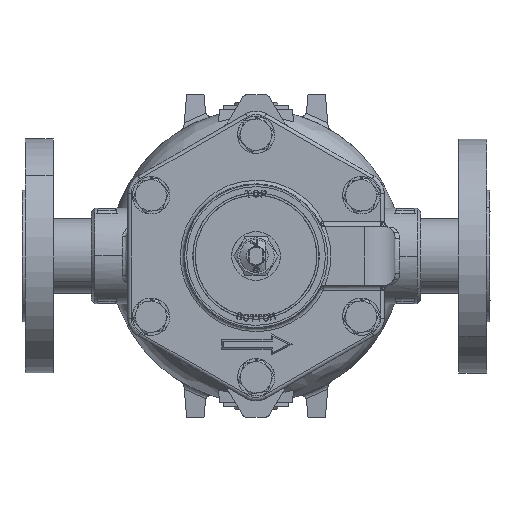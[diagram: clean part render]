
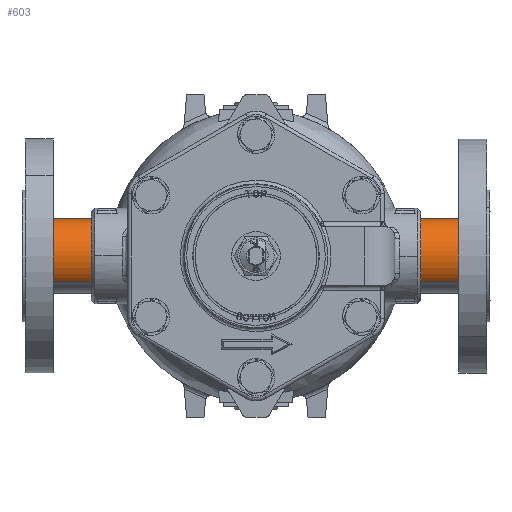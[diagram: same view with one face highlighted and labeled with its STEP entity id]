
A CAD part, front view. The second image highlights one B-rep face of the part: STEP entity #603.
In plain terms, the highlighted cylindrical face has radius 21.35 mm (diameter 42.7 mm), a partial arc.
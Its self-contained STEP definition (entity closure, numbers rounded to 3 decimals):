
#603=ADVANCED_FACE('',(#1624),#1623,.T.);
#1623=CYLINDRICAL_SURFACE('',#9674,21.35);
#1624=FACE_OUTER_BOUND('',#9675,.T.);
#9671=CARTESIAN_POINT('',(0.,266.5,0.));
#9672=DIRECTION('',(0.,1.,0.));
#9673=DIRECTION('',(0.725,0.,0.688));
#9674=AXIS2_PLACEMENT_3D('',#9671,#9672,#9673);
#9675=EDGE_LOOP('',(#24328,#24329,#24330,#24331,#24332,#24333,#24334,#24335,#24336,#24337));
#24328=ORIENTED_EDGE('',*,*,#29278,.F.);
#24329=ORIENTED_EDGE('',*,*,#29277,.F.);
#24330=ORIENTED_EDGE('',*,*,#29276,.F.);
#24331=ORIENTED_EDGE('',*,*,#29275,.F.);
#24332=ORIENTED_EDGE('',*,*,#29290,.T.);
#24333=ORIENTED_EDGE('',*,*,#29260,.T.);
#24334=ORIENTED_EDGE('',*,*,#29259,.T.);
#24335=ORIENTED_EDGE('',*,*,#29258,.T.);
#24336=ORIENTED_EDGE('',*,*,#29257,.T.);
#24337=ORIENTED_EDGE('',*,*,#29291,.F.);
#29257=EDGE_CURVE('',#32564,#32556,#32565,.T.);
#29258=EDGE_CURVE('',#32571,#32564,#32572,.T.);
#29259=EDGE_CURVE('',#32578,#32571,#32579,.T.);
#29260=EDGE_CURVE('',#32585,#32578,#32586,.T.);
#29275=EDGE_CURVE('',#32683,#32690,#32691,.T.);
#29276=EDGE_CURVE('',#32690,#32697,#32698,.T.);
#29277=EDGE_CURVE('',#32697,#32704,#32705,.T.);
#29278=EDGE_CURVE('',#32704,#32711,#32712,.T.);
#29290=EDGE_CURVE('',#32683,#32585,#32792,.T.);
#29291=EDGE_CURVE('',#32711,#32556,#32798,.T.);
#32556=VERTEX_POINT('',#49662);
#32564=VERTEX_POINT('',#49671);
#32565=(BOUNDED_CURVE() B_SPLINE_CURVE(3,(#49672,#49673,#49674,#49675,#49676,#49677,#49678),.UNSPECIFIED.,.F.,.F.) B_SPLINE_CURVE_WITH_KNOTS((4,1,1,1,4),(0.,4.454,8.908,14.41,16.209),.UNSPECIFIED.) CURVE() GEOMETRIC_REPRESENTATION_ITEM() RATIONAL_B_SPLINE_CURVE((1.,1.,1.,1.,1.,1.,1.)) REPRESENTATION_ITEM('') );
#32571=VERTEX_POINT('',#49679);
#32572=(BOUNDED_CURVE() B_SPLINE_CURVE(3,(#49680,#49681,#49682,#49683,#49684,#49685,#49686),.UNSPECIFIED.,.F.,.F.) B_SPLINE_CURVE_WITH_KNOTS((4,1,1,1,4),(0.,4.061,8.934,13.266,17.327),.UNSPECIFIED.) CURVE() GEOMETRIC_REPRESENTATION_ITEM() RATIONAL_B_SPLINE_CURVE((1.,1.,1.,1.,1.,1.,1.)) REPRESENTATION_ITEM('') );
#32578=VERTEX_POINT('',#49687);
#32579=CIRCLE('',#49691,21.35);
#32585=VERTEX_POINT('',#49692);
#32586=CIRCLE('',#49696,21.35);
#32683=VERTEX_POINT('',#49786);
#32690=VERTEX_POINT('',#49791);
#32691=CIRCLE('',#49795,21.35);
#32697=VERTEX_POINT('',#49796);
#32698=(BOUNDED_CURVE() B_SPLINE_CURVE(3,(#49797,#49798,#49799,#49800,#49801,#49802),.UNSPECIFIED.,.F.,.F.) B_SPLINE_CURVE_WITH_KNOTS((4,1,1,4),(0.,5.572,11.144,16.209),.UNSPECIFIED.) CURVE() GEOMETRIC_REPRESENTATION_ITEM() RATIONAL_B_SPLINE_CURVE((1.,1.,1.,1.,1.,1.)) REPRESENTATION_ITEM('') );
#32704=VERTEX_POINT('',#49803);
#32705=(BOUNDED_CURVE() B_SPLINE_CURVE(3,(#49804,#49805,#49806,#49807,#49808,#49809,#49810),.UNSPECIFIED.,.F.,.F.) B_SPLINE_CURVE_WITH_KNOTS((4,1,1,1,4),(0.,4.061,8.934,13.266,17.327),.UNSPECIFIED.) CURVE() GEOMETRIC_REPRESENTATION_ITEM() RATIONAL_B_SPLINE_CURVE((1.,1.,1.,1.,1.,1.,1.)) REPRESENTATION_ITEM('') );
#32711=VERTEX_POINT('',#49811);
#32712=(BOUNDED_CURVE() B_SPLINE_CURVE(3,(#49812,#49813,#49814,#49815,#49816,#49817,#49818),.UNSPECIFIED.,.F.,.F.) B_SPLINE_CURVE_WITH_KNOTS((4,1,1,1,4),(0.,4.454,8.908,14.41,16.209),.UNSPECIFIED.) CURVE() GEOMETRIC_REPRESENTATION_ITEM() RATIONAL_B_SPLINE_CURVE((1.,1.,1.,1.,1.,1.,1.)) REPRESENTATION_ITEM('') );
#32792=(BOUNDED_CURVE() B_SPLINE_CURVE(1,(#49884,#49885),.UNSPECIFIED.,.F.,.F.) B_SPLINE_CURVE_WITH_KNOTS((2,2),(0.036,0.964),.UNSPECIFIED.) CURVE() GEOMETRIC_REPRESENTATION_ITEM() RATIONAL_B_SPLINE_CURVE((1.,1.)) REPRESENTATION_ITEM('') );
#32798=(BOUNDED_CURVE() B_SPLINE_CURVE(1,(#49886,#49887),.UNSPECIFIED.,.F.,.F.) B_SPLINE_CURVE_WITH_KNOTS((2,2),(0.036,0.964),.UNSPECIFIED.) CURVE() GEOMETRIC_REPRESENTATION_ITEM() RATIONAL_B_SPLINE_CURVE((0.75,0.75)) REPRESENTATION_ITEM('') );
#49662=CARTESIAN_POINT('',(-15.487,260.,-14.696));
#49671=CARTESIAN_POINT('',(-21.35,260.,0.));
#49672=CARTESIAN_POINT('',(-21.35,260.,0.));
#49673=CARTESIAN_POINT('',(-21.35,260.,-1.485));
#49674=CARTESIAN_POINT('',(-21.039,260.,-4.454));
#49675=CARTESIAN_POINT('',(-19.553,260.,-9.049));
#49676=CARTESIAN_POINT('',(-17.501,260.,-12.426));
#49677=CARTESIAN_POINT('',(-15.9,260.,-14.261));
#49678=CARTESIAN_POINT('',(-15.487,260.,-14.696));
#49679=CARTESIAN_POINT('',(-14.696,260.,15.487));
#49680=CARTESIAN_POINT('',(-14.696,260.,15.487));
#49681=CARTESIAN_POINT('',(-15.678,260.,14.555));
#49682=CARTESIAN_POINT('',(-17.643,260.,12.299));
#49683=CARTESIAN_POINT('',(-19.805,260.,8.409));
#49684=CARTESIAN_POINT('',(-21.083,260.,4.151));
#49685=CARTESIAN_POINT('',(-21.35,260.,1.354));
#49686=CARTESIAN_POINT('',(-21.35,260.,0.));
#49687=CARTESIAN_POINT('',(0.,260.,21.35));
#49688=CARTESIAN_POINT('',(0.,260.,0.));
#49689=DIRECTION('',(0.,-1.,0.));
#49690=DIRECTION('',(0.,0.,-1.));
#49691=AXIS2_PLACEMENT_3D('',#49688,#49689,#49690);
#49692=CARTESIAN_POINT('',(15.487,260.,14.696));
#49693=CARTESIAN_POINT('',(0.,260.,0.));
#49694=DIRECTION('',(0.,-1.,0.));
#49695=DIRECTION('',(-1.,0.,0.));
#49696=AXIS2_PLACEMENT_3D('',#49693,#49694,#49695);
#49786=CARTESIAN_POINT('',(15.487,0.,14.696));
#49791=CARTESIAN_POINT('',(0.,0.,21.35));
#49792=CARTESIAN_POINT('',(0.,0.,0.));
#49793=DIRECTION('',(0.,-1.,0.));
#49794=DIRECTION('',(-1.,0.,0.));
#49795=AXIS2_PLACEMENT_3D('',#49792,#49793,#49794);
#49796=CARTESIAN_POINT('',(-14.696,0.,15.487));
#49797=CARTESIAN_POINT('',(0.,0.,21.35));
#49798=CARTESIAN_POINT('',(-1.857,0.,21.35));
#49799=CARTESIAN_POINT('',(-5.572,0.,20.862));
#49800=CARTESIAN_POINT('',(-10.609,0.,18.783));
#49801=CARTESIAN_POINT('',(-13.472,0.,16.649));
#49802=CARTESIAN_POINT('',(-14.696,0.,15.487));
#49803=CARTESIAN_POINT('',(-21.35,0.,0.));
#49804=CARTESIAN_POINT('',(-14.696,0.,15.487));
#49805=CARTESIAN_POINT('',(-15.678,0.,14.555));
#49806=CARTESIAN_POINT('',(-17.643,0.,12.299));
#49807=CARTESIAN_POINT('',(-19.805,0.,8.409));
#49808=CARTESIAN_POINT('',(-21.083,0.,4.151));
#49809=CARTESIAN_POINT('',(-21.35,0.,1.354));
#49810=CARTESIAN_POINT('',(-21.35,0.,0.));
#49811=CARTESIAN_POINT('',(-15.487,0.,-14.696));
#49812=CARTESIAN_POINT('',(-21.35,0.,0.));
#49813=CARTESIAN_POINT('',(-21.35,0.,-1.485));
#49814=CARTESIAN_POINT('',(-21.039,0.,-4.454));
#49815=CARTESIAN_POINT('',(-19.553,0.,-9.049));
#49816=CARTESIAN_POINT('',(-17.501,0.,-12.426));
#49817=CARTESIAN_POINT('',(-15.9,0.,-14.261));
#49818=CARTESIAN_POINT('',(-15.487,0.,-14.696));
#49884=CARTESIAN_POINT('',(15.487,0.,14.696));
#49885=CARTESIAN_POINT('',(15.487,260.,14.696));
#49886=CARTESIAN_POINT('',(-15.487,0.,-14.696));
#49887=CARTESIAN_POINT('',(-15.487,260.,-14.696));
